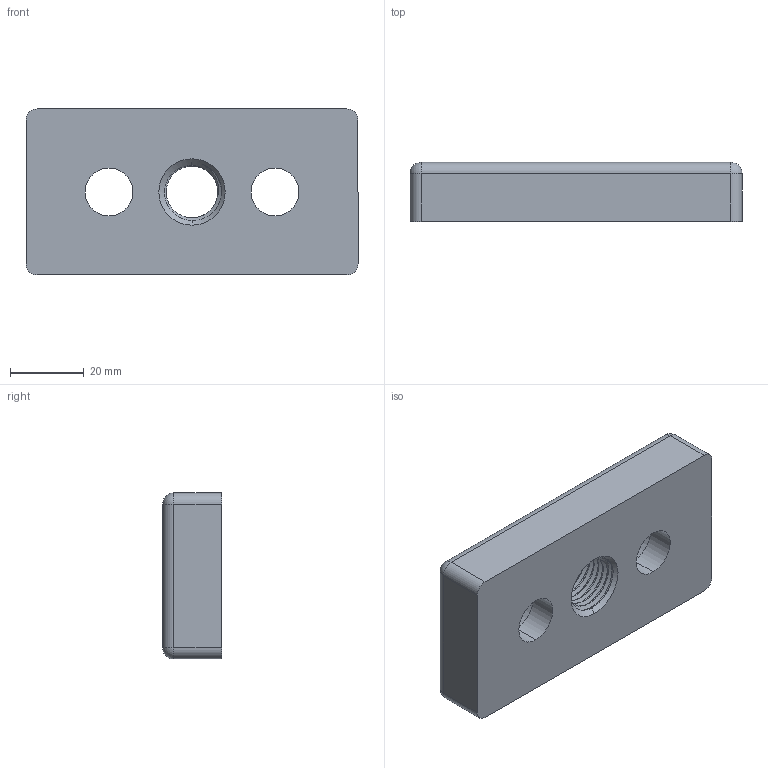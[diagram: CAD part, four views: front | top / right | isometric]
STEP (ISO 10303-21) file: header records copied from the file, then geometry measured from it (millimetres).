
FILE_DESCRIPTION (( 'STEP AP203' ), '1' );
FILE_NAME ('3213.010.312.STEP', '2025-02-19T06:10:58', ( '' ), ( '' ), 'SwSTEP 2.0', 'SolidWorks 2024', '' );
FILE_SCHEMA (( 'CONFIG_CONTROL_DESIGN' ));
Length unit declared in the file: millimetre
Products named in the file (1): 3213.010.312
Bounding box: 90 x 16 x 45 mm (x, y, z)
Volume: 53762.1 mm3; surface area: 13824.1 mm2
Topology: 1 solids, 1 shells, 54 faces, 138 edges, 84 vertices
Faces by surface type: cylinder 31, cone 8, plane 8, sphere 4, bspline 3
Entity records: 4330 total; most frequent: CARTESIAN_POINT 3050, ORIENTED_EDGE 268, DIRECTION 238, EDGE_CURVE 134, AXIS2_PLACEMENT_3D 94, VERTEX_POINT 84, EDGE_LOOP 62, FACE_OUTER_BOUND 54
